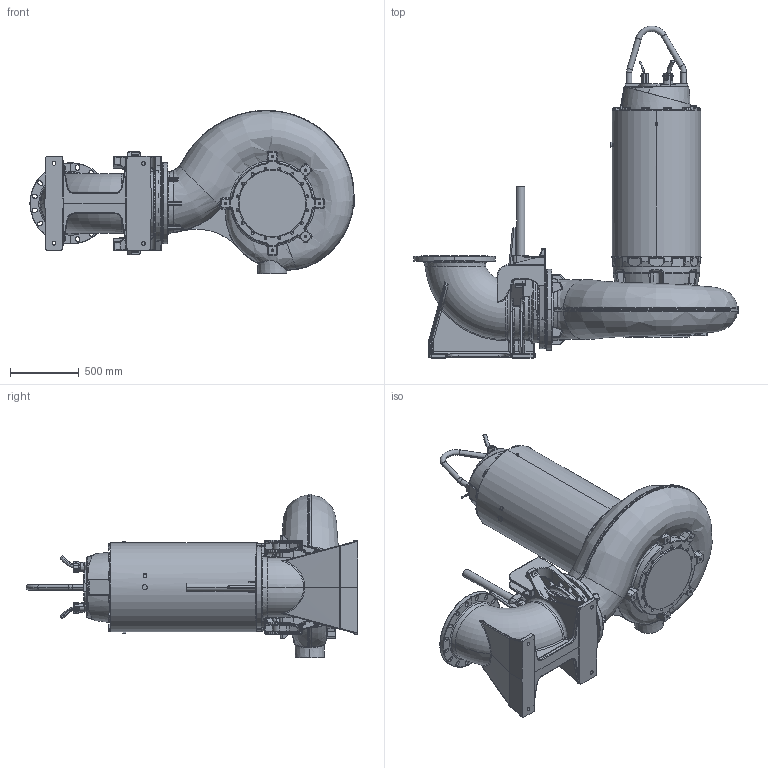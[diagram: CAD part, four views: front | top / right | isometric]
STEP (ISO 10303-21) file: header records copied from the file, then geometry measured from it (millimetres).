
FILE_DESCRIPTION (( 'STEP AP214' ), '1' );
FILE_NAME ('PE6_XFP400M-CH2_WET_A_NG2.STEP', '2017-03-23T08:03:43', ( '' ), ( '' ), 'SwSTEP 2.0', 'SolidWorks 2017', '' );
FILE_SCHEMA (( 'AUTOMOTIVE_DESIGN' ));
Length unit declared in the file: millimetre
Products named in the file (1): PE6_XFP400M-CH2_WET_A_NG2
Bounding box: 2353 x 2408.9 x 1184.25 mm (x, y, z)
Volume: 989744631.4 mm3; surface area: 12707726.1 mm2
Topology: 4 solids, 28 shells, 4847 faces, 11873 edges, 6905 vertices
Faces by surface type: cylinder 1321, bspline 1250, plane 1094, torus 510, cone 436, sphere 236
Entity records: 288638 total; most frequent: CARTESIAN_POINT 132127, ORIENTED_EDGE 23156, DIRECTION 19729, EDGE_CURVE 11578, AXIS2_PLACEMENT_3D 7976, VERTEX_POINT 6899, EDGE_LOOP 5125, UNCERTAINTY_MEASURE_WITH_UNIT 4853
